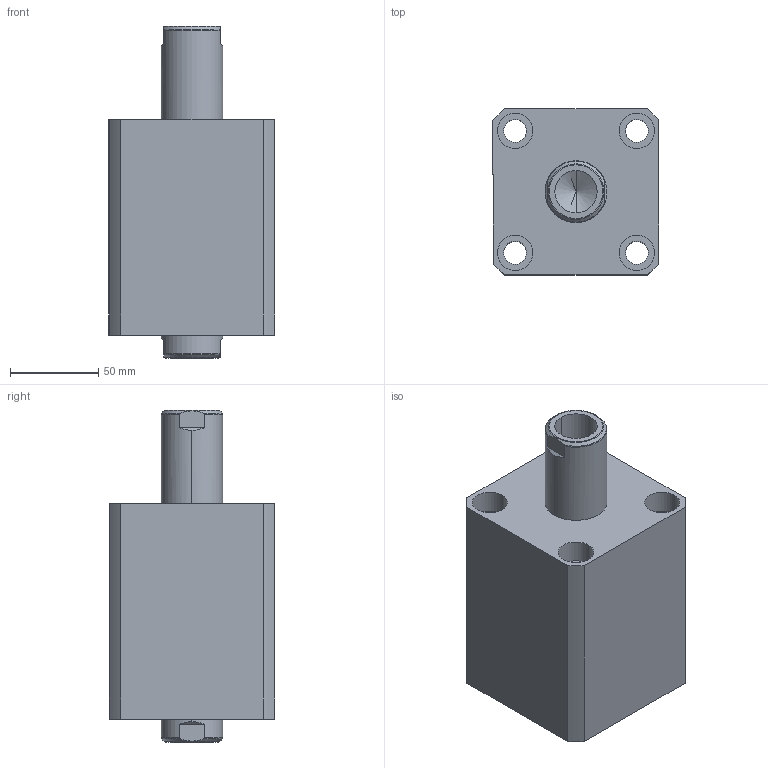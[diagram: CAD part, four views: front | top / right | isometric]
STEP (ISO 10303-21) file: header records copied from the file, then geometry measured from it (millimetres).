
FILE_DESCRIPTION (( 'STEP AP214' ), '1' );
FILE_NAME ('chtb-sw63x40n_asm.STEP', '2018-05-12T02:09:59', ( 'Windows' ), ( 'Microsoft' ), 'SwSTEP 2.0', 'SolidWorks 2015', '' );
FILE_SCHEMA (( 'AUTOMOTIVE_DESIGN' ));
Length unit declared in the file: millimetre
Products named in the file (4): CHTB-SW63X40NHSG; CHTB-SW63X40NBT; CHTB-63QG; chtb-sw63x40n_asm
Assembly tree (3 placements, depth 2):
  chtb-sw63x40n_asm
    CHTB-63QG
    CHTB-SW63X40NBT
    CHTB-SW63X40NHSG
Bounding box: 94 x 94 x 188 mm (x, y, z)
Volume: 935649.5 mm3; surface area: 156739.1 mm2
Topology: 3 solids, 3 shells, 184 faces, 515 edges, 349 vertices
Faces by surface type: cylinder 106, plane 38, cone 16, bspline 12, torus 12
Entity records: 18385 total; most frequent: CARTESIAN_POINT 13775, ORIENTED_EDGE 1014, DIRECTION 814, EDGE_CURVE 507, VERTEX_POINT 349, AXIS2_PLACEMENT_3D 331, EDGE_LOOP 220, FACE_OUTER_BOUND 184
